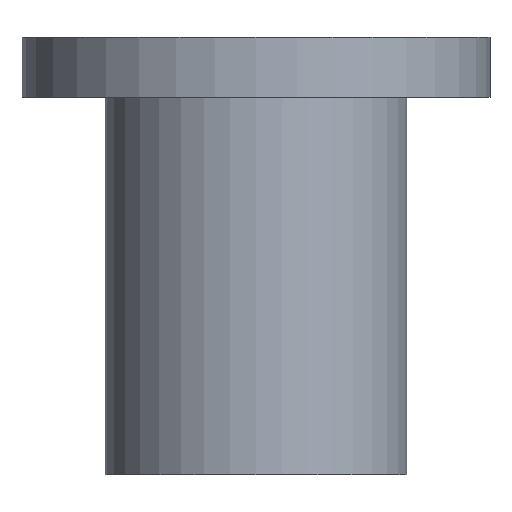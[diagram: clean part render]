
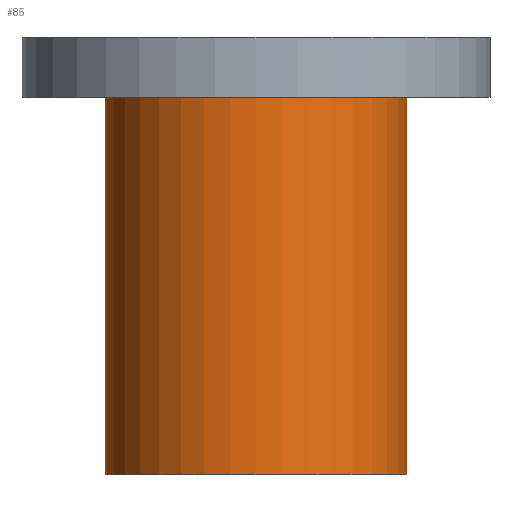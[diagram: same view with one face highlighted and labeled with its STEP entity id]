
A CAD part, front view. The second image highlights one B-rep face of the part: STEP entity #85.
In plain terms, the highlighted cylindrical face has radius 20 mm (diameter 40 mm), a partial arc.
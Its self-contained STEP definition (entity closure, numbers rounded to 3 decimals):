
#44=CARTESIAN_POINT('',(0.0,0.0,0.0));
#45=DIRECTION('',(0.0,0.0,1.0));
#46=DIRECTION('',(-1.0,0.0,0.0));
#47=AXIS2_PLACEMENT_3D('',#44,#45,#46);
#48=CYLINDRICAL_SURFACE('',#47,20.0);
#49=CARTESIAN_POINT('',(-20.0,0.,-29.));
#50=VERTEX_POINT('',#49);
#51=CARTESIAN_POINT('',(-20.0,0.,21.));
#52=VERTEX_POINT('',#51);
#53=CARTESIAN_POINT('',(-20.0,0.,-29.));
#54=DIRECTION('',(0.0,0.0,1.0));
#55=VECTOR('',#54,50.);
#56=LINE('',#53,#55);
#57=EDGE_CURVE('',#50,#52,#56,.T.);
#58=ORIENTED_EDGE('',*,*,#57,.F.);
#59=CARTESIAN_POINT('',(20.0,0.,-29.));
#60=VERTEX_POINT('',#59);
#61=CARTESIAN_POINT('',(0.0,0.0,-29.));
#62=DIRECTION('',(0.0,0.0,1.0));
#63=DIRECTION('',(-1.0,0.0,0.0));
#64=AXIS2_PLACEMENT_3D('',#61,#62,#63);
#65=CIRCLE('',#64,20.0);
#66=EDGE_CURVE('',#50,#60,#65,.T.);
#67=ORIENTED_EDGE('',*,*,#66,.T.);
#68=CARTESIAN_POINT('',(20.0,0.,21.));
#69=VERTEX_POINT('',#68);
#70=CARTESIAN_POINT('',(20.0,0.,21.));
#71=DIRECTION('',(0.0,0.0,-1.0));
#72=VECTOR('',#71,50.);
#73=LINE('',#70,#72);
#74=EDGE_CURVE('',#69,#60,#73,.T.);
#75=ORIENTED_EDGE('',*,*,#74,.F.);
#76=CARTESIAN_POINT('',(0.0,0.0,21.));
#77=DIRECTION('',(0.0,0.0,-1.0));
#78=DIRECTION('',(-1.0,0.0,0.0));
#79=AXIS2_PLACEMENT_3D('',#76,#77,#78);
#80=CIRCLE('',#79,20.0);
#81=EDGE_CURVE('',#69,#52,#80,.T.);
#82=ORIENTED_EDGE('',*,*,#81,.T.);
#83=EDGE_LOOP('',(#58,#67,#75,#82));
#84=FACE_OUTER_BOUND('',#83,.T.);
#85=ADVANCED_FACE('',(#84),#48,.T.);
